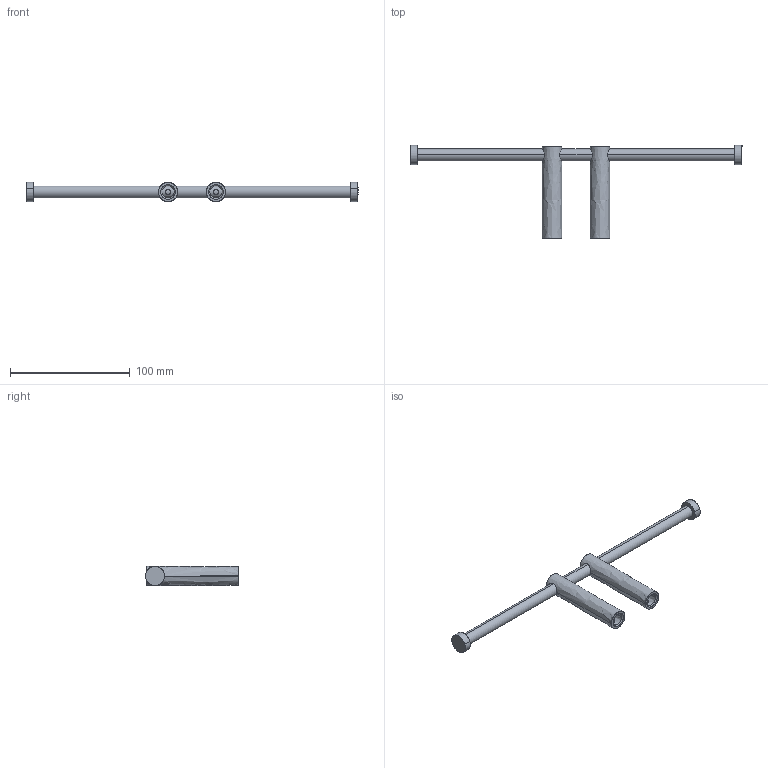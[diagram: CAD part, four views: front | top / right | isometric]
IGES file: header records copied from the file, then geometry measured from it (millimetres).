
Start section: SolidWorks IGES file using analytic representation for surfaces
Global section: file name: G:\Projects\New project\For Marketing\IGS\DXF & IGS\2260257.IGS; native system: SolidWorks 2010; preprocessor: SolidWorks 2010; author: weijuan; date: 151006.120721; units: inch
Bounding box: 277 x 77.75 x 16 mm (x, y, z)
Surface area: 22469.6 mm2 (no closed solid volume)
Topology: 0 solids, 0 shells, 42 faces, 830 edges, 830 vertices
Faces by surface type: revolution 30, bspline 12
